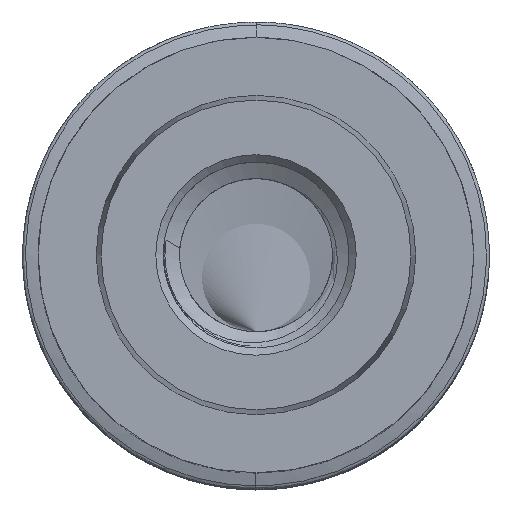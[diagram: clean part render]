
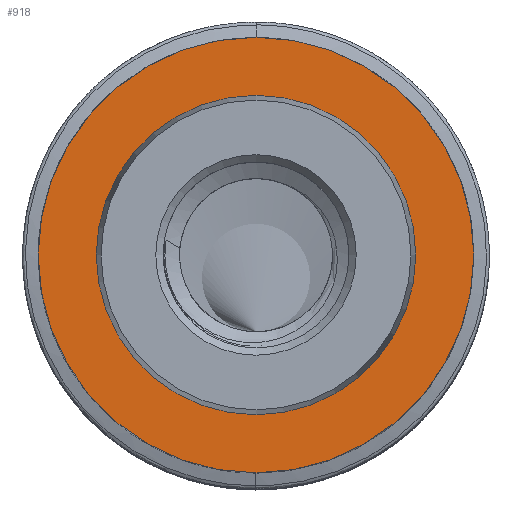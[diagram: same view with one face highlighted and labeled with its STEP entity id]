
A CAD part, top view. The second image highlights one B-rep face of the part: STEP entity #918.
In plain terms, the highlighted planar face has unit normal (0, 0, 1).
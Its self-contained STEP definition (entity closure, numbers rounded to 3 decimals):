
#15=FACE_BOUND('',#163,.T.);
#24=PLANE('',#996);
#41=CIRCLE('',#949,5.975);
#42=CIRCLE('',#950,5.975);
#57=CIRCLE('',#997,4.381);
#58=CIRCLE('',#998,4.381);
#111=FACE_OUTER_BOUND('',#162,.T.);
#162=EDGE_LOOP('',(#806,#807));
#163=EDGE_LOOP('',(#808,#809));
#348=VERTEX_POINT('',#1328);
#349=VERTEX_POINT('',#1330);
#418=VERTEX_POINT('',#7402);
#419=VERTEX_POINT('',#7403);
#440=EDGE_CURVE('',#348,#349,#41,.T.);
#441=EDGE_CURVE('',#349,#348,#42,.T.);
#554=EDGE_CURVE('',#418,#419,#57,.T.);
#555=EDGE_CURVE('',#419,#418,#58,.T.);
#806=ORIENTED_EDGE('',*,*,#441,.F.);
#807=ORIENTED_EDGE('',*,*,#440,.F.);
#808=ORIENTED_EDGE('',*,*,#554,.T.);
#809=ORIENTED_EDGE('',*,*,#555,.T.);
#918=ADVANCED_FACE('',(#111,#15),#24,.T.);
#949=AXIS2_PLACEMENT_3D('',#1331,#1031,#1032);
#950=AXIS2_PLACEMENT_3D('',#1332,#1033,#1034);
#996=AXIS2_PLACEMENT_3D('',#7401,#1164,#1165);
#997=AXIS2_PLACEMENT_3D('',#7404,#1166,#1167);
#998=AXIS2_PLACEMENT_3D('',#7405,#1168,#1169);
#1031=DIRECTION('center_axis',(0.,0.,-1.));
#1032=DIRECTION('ref_axis',(0.,1.,0.));
#1033=DIRECTION('center_axis',(0.,0.,-1.));
#1034=DIRECTION('ref_axis',(0.,1.,0.));
#1164=DIRECTION('center_axis',(0.,0.,1.));
#1165=DIRECTION('ref_axis',(1.,0.,0.));
#1166=DIRECTION('center_axis',(0.,0.,-1.));
#1167=DIRECTION('ref_axis',(0.,1.,0.));
#1168=DIRECTION('center_axis',(0.,0.,-1.));
#1169=DIRECTION('ref_axis',(0.,1.,0.));
#1328=CARTESIAN_POINT('',(0.,-5.975,0.));
#1330=CARTESIAN_POINT('',(0.,5.975,0.));
#1331=CARTESIAN_POINT('Origin',(0.,0.,0.));
#1332=CARTESIAN_POINT('Origin',(0.,0.,0.));
#7401=CARTESIAN_POINT('Origin',(0.,5.178,0.));
#7402=CARTESIAN_POINT('',(0.,4.381,0.));
#7403=CARTESIAN_POINT('',(0.,-4.381,0.));
#7404=CARTESIAN_POINT('Origin',(0.,0.,0.));
#7405=CARTESIAN_POINT('Origin',(0.,0.,0.));
